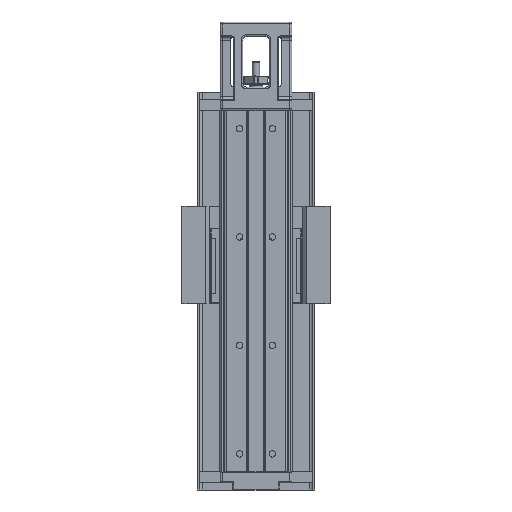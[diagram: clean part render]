
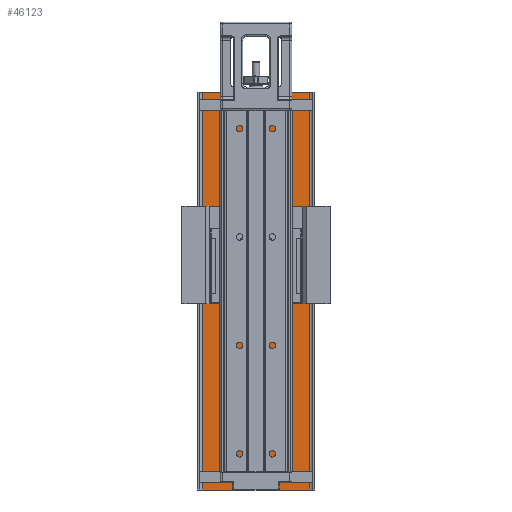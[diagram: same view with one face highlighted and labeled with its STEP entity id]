
A CAD part, front view. The second image highlights one B-rep face of the part: STEP entity #46123.
In plain terms, the highlighted planar face has unit normal (0, -1, 0).
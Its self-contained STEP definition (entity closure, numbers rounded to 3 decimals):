
#316 = DIRECTION ( 'NONE',  ( 0., 0., -1. ) ) ;
#986 = CIRCLE ( 'NONE', #8429, 1.75 ) ;
#1515 = CIRCLE ( 'NONE', #24158, 1.75 ) ;
#1785 = FACE_BOUND ( 'NONE', #32225, .T. ) ;
#1854 = CARTESIAN_POINT ( 'NONE',  ( 10., 28.5, -205. ) ) ;
#3348 = EDGE_CURVE ( 'NONE', #17335, #18505, #5845, .T. ) ;
#5086 = ORIENTED_EDGE ( 'NONE', *, *, #9518, .T. ) ;
#5622 = DIRECTION ( 'NONE',  ( 0., 0., -1. ) ) ;
#5845 = CIRCLE ( 'NONE', #24557, 1.75 ) ;
#5975 = DIRECTION ( 'NONE',  ( 0., 1., 0. ) ) ;
#7470 = AXIS2_PLACEMENT_3D ( 'NONE', #1854, #28103, #5622 ) ;
#8060 = ORIENTED_EDGE ( 'NONE', *, *, #14665, .T. ) ;
#8429 = AXIS2_PLACEMENT_3D ( 'NONE', #9567, #35805, #13307 ) ;
#9012 = EDGE_CURVE ( 'NONE', #11738, #33335, #31272, .T. ) ;
#9518 = EDGE_CURVE ( 'NONE', #32070, #33335, #27120, .T. ) ;
#9567 = CARTESIAN_POINT ( 'NONE',  ( 10., 28.5, 5. ) ) ;
#9739 = VERTEX_POINT ( 'NONE', #35199 ) ;
#10133 = CARTESIAN_POINT ( 'NONE',  ( -10., 28.5, -203.25 ) ) ;
#10657 = ORIENTED_EDGE ( 'NONE', *, *, #20709, .T. ) ;
#11134 = DIRECTION ( 'NONE',  ( 0., 1., 0. ) ) ;
#11297 = DIRECTION ( 'NONE',  ( 0., 1., 0. ) ) ;
#11643 = CARTESIAN_POINT ( 'NONE',  ( 29.5, 28.5, -210. ) ) ;
#11738 = VERTEX_POINT ( 'NONE', #25850 ) ;
#12499 = VECTOR ( 'NONE', #33613, 1000. ) ;
#12825 = CIRCLE ( 'NONE', #33484, 1.75 ) ;
#13295 = EDGE_CURVE ( 'NONE', #44165, #18110, #12825, .T. ) ;
#13307 = DIRECTION ( 'NONE',  ( 0., 0., -1. ) ) ;
#13370 = EDGE_CURVE ( 'NONE', #43154, #23950, #19253, .T. ) ;
#14665 = EDGE_CURVE ( 'NONE', #18110, #44165, #33848, .T. ) ;
#16179 = EDGE_CURVE ( 'NONE', #9739, #43828, #47269, .T. ) ;
#16671 = EDGE_LOOP ( 'NONE', ( #10657, #37873 ) ) ;
#17335 = VERTEX_POINT ( 'NONE', #10133 ) ;
#18110 = VERTEX_POINT ( 'NONE', #25076 ) ;
#18230 = FACE_OUTER_BOUND ( 'NONE', #35150, .T. ) ;
#18505 = VERTEX_POINT ( 'NONE', #28752 ) ;
#18742 = EDGE_CURVE ( 'NONE', #11738, #38955, #36615, .T. ) ;
#18895 = CARTESIAN_POINT ( 'NONE',  ( -10., 28.5, -205. ) ) ;
#19253 = CIRCLE ( 'NONE', #48510, 1.75 ) ;
#19671 = ORIENTED_EDGE ( 'NONE', *, *, #18742, .T. ) ;
#20613 = CIRCLE ( 'NONE', #28661, 1.75 ) ;
#20709 = EDGE_CURVE ( 'NONE', #18505, #17335, #20613, .T. ) ;
#21577 = DIRECTION ( 'NONE',  ( 0., -1., 0. ) ) ;
#21633 = ORIENTED_EDGE ( 'NONE', *, *, #9012, .F. ) ;
#21967 = CARTESIAN_POINT ( 'NONE',  ( -10., 28.5, -205. ) ) ;
#22501 = LINE ( 'NONE', #47602, #42455 ) ;
#22616 = ORIENTED_EDGE ( 'NONE', *, *, #28305, .T. ) ;
#22639 = DIRECTION ( 'NONE',  ( 0., 0., -1. ) ) ;
#22797 = DIRECTION ( 'NONE',  ( 0., 1., 0. ) ) ;
#23305 = CARTESIAN_POINT ( 'NONE',  ( 10., 28.5, -203.25 ) ) ;
#23950 = VERTEX_POINT ( 'NONE', #34724 ) ;
#24158 = AXIS2_PLACEMENT_3D ( 'NONE', #28438, #5975, #32224 ) ;
#24557 = AXIS2_PLACEMENT_3D ( 'NONE', #18895, #45093, #22639 ) ;
#25076 = CARTESIAN_POINT ( 'NONE',  ( -10., 28.5, 3.25 ) ) ;
#25165 = DIRECTION ( 'NONE',  ( 1., 0., 0. ) ) ;
#25508 = EDGE_CURVE ( 'NONE', #23950, #43154, #986, .T. ) ;
#25670 = DIRECTION ( 'NONE',  ( 0., 0., 1. ) ) ;
#25730 = DIRECTION ( 'NONE',  ( 0., 0., -1. ) ) ;
#25850 = CARTESIAN_POINT ( 'NONE',  ( -29.5, 28.5, 10. ) ) ;
#26531 = EDGE_CURVE ( 'NONE', #43828, #9739, #1515, .T. ) ;
#27120 = LINE ( 'NONE', #48118, #47046 ) ;
#28103 = DIRECTION ( 'NONE',  ( 0., 1., 0. ) ) ;
#28196 = FACE_BOUND ( 'NONE', #30735, .T. ) ;
#28305 = EDGE_CURVE ( 'NONE', #38955, #32070, #22501, .T. ) ;
#28438 = CARTESIAN_POINT ( 'NONE',  ( 10., 28.5, -205. ) ) ;
#28661 = AXIS2_PLACEMENT_3D ( 'NONE', #21967, #48185, #25730 ) ;
#28752 = CARTESIAN_POINT ( 'NONE',  ( -10., 28.5, -206.75 ) ) ;
#29365 = FACE_BOUND ( 'NONE', #16671, .T. ) ;
#29821 = CARTESIAN_POINT ( 'NONE',  ( -19.8, 28.5, 10. ) ) ;
#30373 = CARTESIAN_POINT ( 'NONE',  ( -29.5, 28.5, -210. ) ) ;
#30735 = EDGE_LOOP ( 'NONE', ( #8060, #36549 ) ) ;
#31272 = LINE ( 'NONE', #29821, #12499 ) ;
#31463 = AXIS2_PLACEMENT_3D ( 'NONE', #40279, #21577, #47767 ) ;
#32070 = VERTEX_POINT ( 'NONE', #11643 ) ;
#32224 = DIRECTION ( 'NONE',  ( 0., 0., -1. ) ) ;
#32225 = EDGE_LOOP ( 'NONE', ( #42173, #37907 ) ) ;
#32268 = AXIS2_PLACEMENT_3D ( 'NONE', #45244, #22797, #316 ) ;
#32739 = PLANE ( 'NONE',  #31463 ) ;
#33130 = EDGE_LOOP ( 'NONE', ( #47913, #47576 ) ) ;
#33335 = VERTEX_POINT ( 'NONE', #48108 ) ;
#33484 = AXIS2_PLACEMENT_3D ( 'NONE', #33604, #11134, #37373 ) ;
#33604 = CARTESIAN_POINT ( 'NONE',  ( -10., 28.5, 5. ) ) ;
#33613 = DIRECTION ( 'NONE',  ( 1., 0., 0. ) ) ;
#33764 = CARTESIAN_POINT ( 'NONE',  ( 10., 28.5, 5. ) ) ;
#33848 = CIRCLE ( 'NONE', #32268, 1.75 ) ;
#34724 = CARTESIAN_POINT ( 'NONE',  ( 10., 28.5, 3.25 ) ) ;
#35150 = EDGE_LOOP ( 'NONE', ( #21633, #19671, #22616, #5086 ) ) ;
#35199 = CARTESIAN_POINT ( 'NONE',  ( 10., 28.5, -206.75 ) ) ;
#35440 = VECTOR ( 'NONE', #37457, 1000. ) ;
#35805 = DIRECTION ( 'NONE',  ( 0., 1., 0. ) ) ;
#36549 = ORIENTED_EDGE ( 'NONE', *, *, #13295, .T. ) ;
#36615 = LINE ( 'NONE', #48540, #35440 ) ;
#37373 = DIRECTION ( 'NONE',  ( 0., 0., -1. ) ) ;
#37457 = DIRECTION ( 'NONE',  ( 0., 0., -1. ) ) ;
#37554 = DIRECTION ( 'NONE',  ( 0., 0., -1. ) ) ;
#37873 = ORIENTED_EDGE ( 'NONE', *, *, #3348, .T. ) ;
#37907 = ORIENTED_EDGE ( 'NONE', *, *, #13370, .T. ) ;
#38193 = FACE_BOUND ( 'NONE', #33130, .T. ) ;
#38955 = VERTEX_POINT ( 'NONE', #30373 ) ;
#39880 = CARTESIAN_POINT ( 'NONE',  ( -10., 28.5, 6.75 ) ) ;
#40279 = CARTESIAN_POINT ( 'NONE',  ( -19.8, 28.5, 0. ) ) ;
#41586 = CARTESIAN_POINT ( 'NONE',  ( 10., 28.5, 6.75 ) ) ;
#42173 = ORIENTED_EDGE ( 'NONE', *, *, #25508, .T. ) ;
#42455 = VECTOR ( 'NONE', #25165, 1000. ) ;
#43154 = VERTEX_POINT ( 'NONE', #41586 ) ;
#43828 = VERTEX_POINT ( 'NONE', #23305 ) ;
#44165 = VERTEX_POINT ( 'NONE', #39880 ) ;
#45093 = DIRECTION ( 'NONE',  ( 0., 1., 0. ) ) ;
#45244 = CARTESIAN_POINT ( 'NONE',  ( -10., 28.5, 5. ) ) ;
#46123 = ADVANCED_FACE ( 'NONE', ( #28196, #1785, #29365, #38193, #18230 ), #32739, .T. ) ;
#47046 = VECTOR ( 'NONE', #25670, 1000. ) ;
#47269 = CIRCLE ( 'NONE', #7470, 1.75 ) ;
#47576 = ORIENTED_EDGE ( 'NONE', *, *, #26531, .T. ) ;
#47602 = CARTESIAN_POINT ( 'NONE',  ( 0., 28.5, -210. ) ) ;
#47767 = DIRECTION ( 'NONE',  ( 0., 0., -1. ) ) ;
#47913 = ORIENTED_EDGE ( 'NONE', *, *, #16179, .T. ) ;
#48108 = CARTESIAN_POINT ( 'NONE',  ( 29.5, 28.5, 10. ) ) ;
#48118 = CARTESIAN_POINT ( 'NONE',  ( 29.5, 28.5, 0. ) ) ;
#48185 = DIRECTION ( 'NONE',  ( 0., 1., 0. ) ) ;
#48510 = AXIS2_PLACEMENT_3D ( 'NONE', #33764, #11297, #37554 ) ;
#48540 = CARTESIAN_POINT ( 'NONE',  ( -29.5, 28.5, 0. ) ) ;
